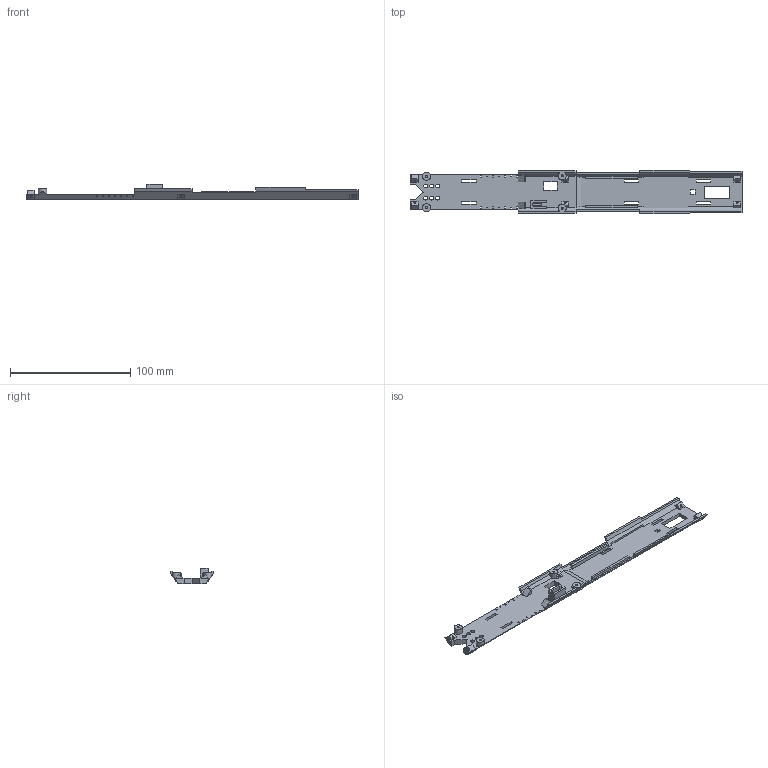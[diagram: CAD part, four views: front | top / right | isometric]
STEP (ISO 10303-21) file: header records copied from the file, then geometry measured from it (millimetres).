
FILE_DESCRIPTION(('SkyG Speed 90B - revision C6B-20 - 2026-10-16','TR-equipment-tray'),'2;1');
FILE_NAME('TR-equipment-tray_C6B-20','2026-10-16T01:43:25',('Author'),( 'Open CASCADE'),'Open CASCADE STEP processor 7.9','Open CASCADE 7.9' ,'Unknown');
FILE_SCHEMA(('AUTOMOTIVE_DESIGN { 1 0 10303 214 1 1 1 1 }'));
Length unit declared in the file: millimetre
Products named in the file (1): TR-equipment-tray C6B-20
Bounding box: 276 x 36.14 x 12.7 mm (x, y, z)
Volume: 29133.5 mm3; surface area: 23388 mm2
Topology: 1 solids, 1 shells, 287 faces, 860 edges, 575 vertices
Faces by surface type: plane 237, cylinder 50
Full cylindrical faces by diameter (mm): 1.6 x4, 3.3 x6, 6.8 x2
Entity records: 21216 total; most frequent: CARTESIAN_POINT 5396, DIRECTION 2504, ORIENTED_EDGE 1720, PCURVE 1720, DEFINITIONAL_REPRESENTATION 1720, LINE 1577, VECTOR 1577, EDGE_CURVE 860
